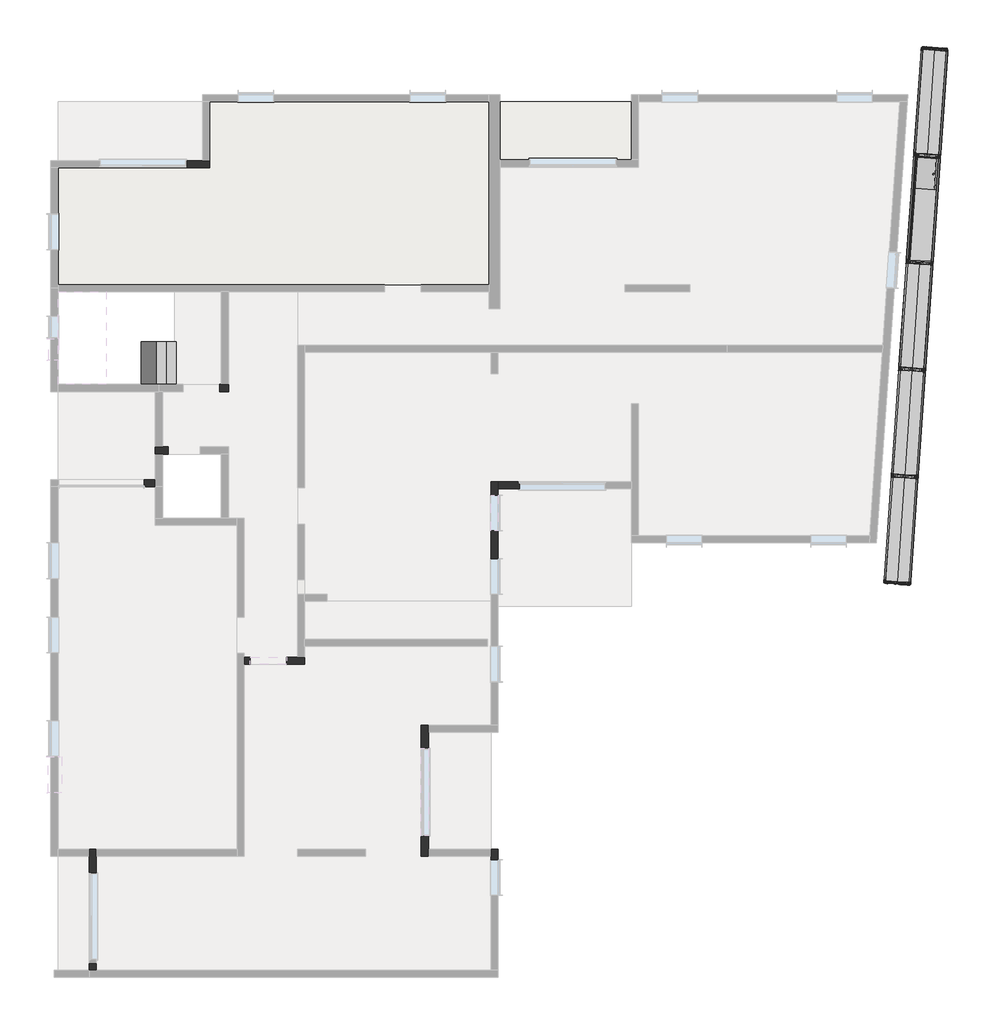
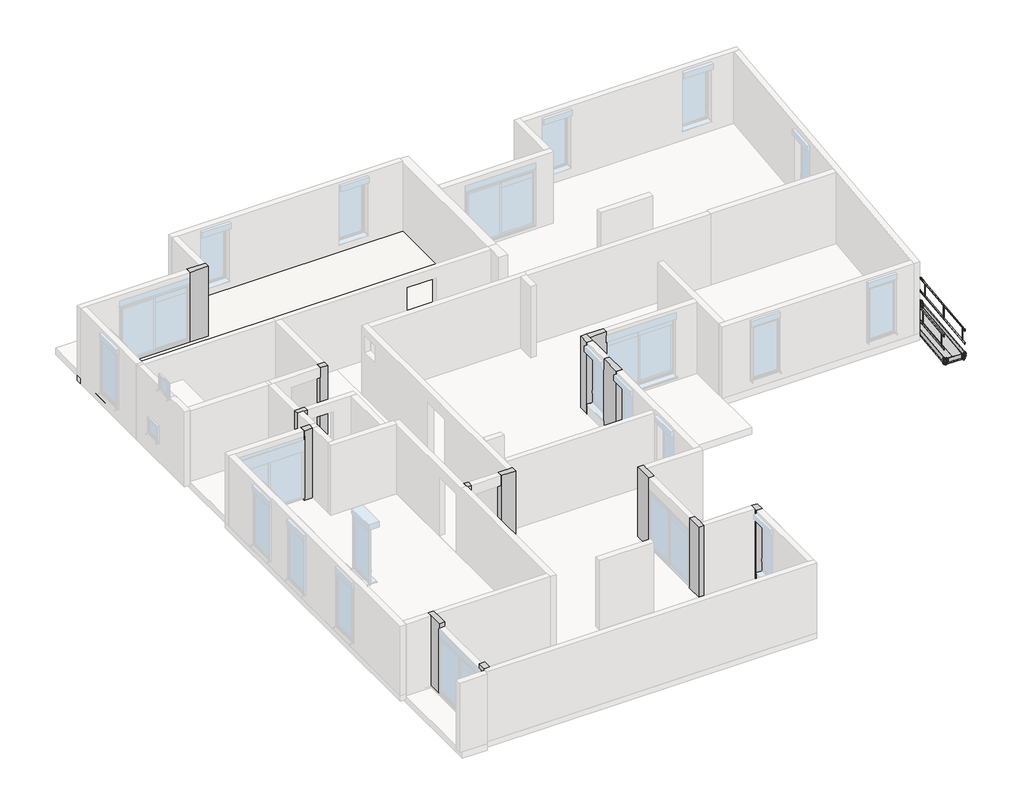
# One storey, part 3 of 3: 55 proxies, 15 columns, 2 slabs, 1 stair flight.
"""IFC4 building model written with IfcOpenShell, lengths in millimetres."""

from ifc_helpers import new_model, si_unit, frame, origin, place, context, project, spatial, polyline, outline, extrude, faceted_brep, transform, mapped, element, save
from components import generic_models_b6224320, generic_models_870fb608, generic_models_6026e95e, generic_models_c9bf4d4e, generic_models_8fe25d63, proxy_03_lisse_70_0da8a22d, proxy_04_lisse_3_m_913477d2

model = new_model("IFC4")

# Units and contexts
model_context = context("Model", 3, world=origin())
ifc_project = project(units=[si_unit("LENGTHUNIT", "METRE", prefix="MILLI")], contexts=[model_context])

# Site, building, storey
site = spatial("IfcSite", under=ifc_project)
building = spatial("IfcBuilding", under=site)
storey = spatial("IfcBuildingStorey", under=building, Name="04-Plateau 4", Elevation=6400.0)

# Proxies
placement = place(None, origin())
generic_models_shape = generic_models_b6224320(model_context)
element("IfcBuildingElementProxy", 1, Name="05-Plateau 3.00 m : JPA Plateau Galva", ObjectType="05-Plateau 3.00 m : JPA Plateau Galva", at=placement, inside=storey, context=model_context, shape_type="MappedRepresentation", body=[
    mapped(generic_models_shape, transform((17696.6144519, 11330.0091436, 6400.0), x_axis=(0.06975647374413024, 0.997564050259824, 0.0), y_axis=(-0.997564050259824, 0.06975647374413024, 0.0), z_axis=(0.0, 0.0, 1.0))),
])
element("IfcBuildingElementProxy", 2, Name="05-Plateau 3.00 m : JPA Plateau Galva", ObjectType="05-Plateau 3.00 m : JPA Plateau Galva", at=placement, inside=storey, context=model_context, shape_type="MappedRepresentation", body=[
    mapped(generic_models_shape, transform((18015.8349479, 11307.687072, 6400.0), x_axis=(0.06975647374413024, 0.997564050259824, 0.0), y_axis=(-0.997564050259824, 0.06975647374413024, 0.0), z_axis=(0.0, 0.0, 1.0))),
])
element("IfcBuildingElementProxy", 3, Name="05-Plateau 3.00 m : JPA Plateau Galva", ObjectType="05-Plateau 3.00 m : JPA Plateau Galva", at=placement, inside=storey, context=model_context, shape_type="MappedRepresentation", body=[
    mapped(generic_models_shape, transform((18115.6220564, 17322.0970558, 6400.0), x_axis=(0.06975647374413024, 0.997564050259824, 0.0), y_axis=(-0.997564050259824, 0.06975647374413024, 0.0), z_axis=(0.0, 0.0, 1.0))),
])
element("IfcBuildingElementProxy", 4, Name="05-Plateau 3.00 m : JPA Plateau Galva", ObjectType="05-Plateau 3.00 m : JPA Plateau Galva", at=placement, inside=storey, context=model_context, shape_type="MappedRepresentation", body=[
    mapped(generic_models_shape, transform((18434.8425525, 17299.7749842, 6400.0), x_axis=(0.06975647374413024, 0.997564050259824, 0.0), y_axis=(-0.997564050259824, 0.06975647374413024, 0.0), z_axis=(0.0, 0.0, 1.0))),
])
element("IfcBuildingElementProxy", 5, Name="05-Plateau 3.00 m : JPA Plateau Galva", ObjectType="05-Plateau 3.00 m : JPA Plateau Galva", at=placement, inside=storey, context=model_context, shape_type="MappedRepresentation", body=[
    mapped(generic_models_shape, transform((17487.1106496, 8333.9651875, 6400.0), x_axis=(0.06975647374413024, 0.997564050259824, 0.0), y_axis=(-0.997564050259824, 0.06975647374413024, 0.0), z_axis=(0.0, 0.0, 1.0))),
])
element("IfcBuildingElementProxy", 6, Name="05-Plateau 3.00 m : JPA Plateau Galva", ObjectType="05-Plateau 3.00 m : JPA Plateau Galva", at=placement, inside=storey, context=model_context, shape_type="MappedRepresentation", body=[
    mapped(generic_models_shape, transform((17806.3311456, 8311.6431159, 6400.0), x_axis=(0.06975647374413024, 0.997564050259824, 0.0), y_axis=(-0.997564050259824, 0.06975647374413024, 0.0), z_axis=(0.0, 0.0, 1.0))),
])
element("IfcBuildingElementProxy", 7, Name="05-Plateau 3.00 m : JPA Plateau Galva", ObjectType="05-Plateau 3.00 m : JPA Plateau Galva", at=placement, inside=storey, context=model_context, shape_type="MappedRepresentation", body=[
    mapped(generic_models_shape, transform((17277.6068473, 5337.9212313, 6400.0), x_axis=(0.06975647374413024, 0.997564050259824, 0.0), y_axis=(-0.997564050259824, 0.06975647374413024, 0.0), z_axis=(0.0, 0.0, 1.0))),
])
element("IfcBuildingElementProxy", 8, Name="05-Plateau 3.00 m : JPA Plateau Galva", ObjectType="05-Plateau 3.00 m : JPA Plateau Galva", at=placement, inside=storey, context=model_context, shape_type="MappedRepresentation", body=[
    mapped(generic_models_shape, transform((17596.8273433, 5315.5991597, 6400.0), x_axis=(0.06975647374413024, 0.997564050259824, 0.0), y_axis=(-0.997564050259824, 0.06975647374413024, 0.0), z_axis=(0.0, 0.0, 1.0))),
])
generic_models_2_shape = generic_models_870fb608(model_context)
element("IfcBuildingElementProxy", 9, Name="07-Plancher trappe : JPA Plancher trappe", ObjectType="07-Plancher trappe : JPA Plancher trappe", at=placement, inside=storey, context=model_context, shape_type="MappedRepresentation", body=[
    mapped(generic_models_2_shape, transform((18144.5472757, 17305.6793517, 6400.0), x_axis=(-0.06975647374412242, -0.9975640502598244, 0.0), y_axis=(0.9975640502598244, -0.06975647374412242, 0.0), z_axis=(0.0, 0.0, 1.0))),
])
generic_models_3_shape = generic_models_6026e95e(model_context)
element("IfcBuildingElementProxy", 10, Name="11-Plinthe 0.70 : JPA Plinthe 0.70", ObjectType="11-Plinthe 0.70 : JPA Plinthe 0.70", at=placement, inside=storey, context=model_context, shape_type="MappedRepresentation", body=[
    mapped(generic_models_3_shape, transform((17293.9283677, 5332.6495195, 6400.0), x_axis=(0.9970739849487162, -0.07644258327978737, 0.0), y_axis=(0.07644258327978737, 0.9970739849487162, 0.0), z_axis=(0.0, 0.0, 1.0))),
])
element("IfcBuildingElementProxy", 11, Name="11-Plinthe 0.70 : JPA Plinthe 0.70", ObjectType="11-Plinthe 0.70 : JPA Plinthe 0.70", at=placement, inside=storey, context=model_context, shape_type="MappedRepresentation", body=[
    mapped(generic_models_3_shape, transform((18342.1895888, 20323.4833915, 6400.0), x_axis=(0.9970739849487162, -0.07644258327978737, 0.0), y_axis=(0.07644258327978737, 0.9970739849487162, 0.0), z_axis=(0.0, 0.0, 1.0))),
])
generic_models_4_shape = generic_models_c9bf4d4e(model_context)
element("IfcBuildingElementProxy", 12, Name="12-Plinthe 3 m : JPA Plinthe 3 m", ObjectType="12-Plinthe 3 m : JPA Plinthe 3 m", at=placement, inside=storey, context=model_context, shape_type="MappedRepresentation", body=[
    mapped(generic_models_4_shape, transform((17696.788843, 11332.5030537, 6400.0), x_axis=(0.06975647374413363, 0.9975640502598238, 0.0), y_axis=(-0.9975640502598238, 0.06975647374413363, 0.0), z_axis=(0.0, 0.0, 1.0))),
])
element("IfcBuildingElementProxy", 13, Name="12-Plinthe 3 m : JPA Plinthe 3 m", ObjectType="12-Plinthe 3 m : JPA Plinthe 3 m", at=placement, inside=storey, context=model_context, shape_type="MappedRepresentation", body=[
    mapped(generic_models_4_shape, transform((18395.0836782, 11283.6735221, 6400.0), x_axis=(0.06975647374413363, 0.9975640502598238, 0.0), y_axis=(-0.9975640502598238, 0.06975647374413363, 0.0), z_axis=(0.0, 0.0, 1.0))),
])
element("IfcBuildingElementProxy", 14, Name="12-Plinthe 3 m : JPA Plinthe 3 m", ObjectType="12-Plinthe 3 m : JPA Plinthe 3 m", at=placement, inside=storey, context=model_context, shape_type="MappedRepresentation", body=[
    mapped(generic_models_4_shape, transform((17906.2926453, 14328.5470098, 6400.0), x_axis=(0.06975647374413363, 0.9975640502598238, 0.0), y_axis=(-0.9975640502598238, 0.06975647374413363, 0.0), z_axis=(0.0, 0.0, 1.0))),
])
element("IfcBuildingElementProxy", 15, Name="12-Plinthe 3 m : JPA Plinthe 3 m", ObjectType="12-Plinthe 3 m : JPA Plinthe 3 m", at=placement, inside=storey, context=model_context, shape_type="MappedRepresentation", body=[
    mapped(generic_models_4_shape, transform((18604.5874805, 14279.7174782, 6400.0), x_axis=(0.06975647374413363, 0.9975640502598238, 0.0), y_axis=(-0.9975640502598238, 0.06975647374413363, 0.0), z_axis=(0.0, 0.0, 1.0))),
])
element("IfcBuildingElementProxy", 16, Name="12-Plinthe 3 m : JPA Plinthe 3 m", ObjectType="12-Plinthe 3 m : JPA Plinthe 3 m", at=placement, inside=storey, context=model_context, shape_type="MappedRepresentation", body=[
    mapped(generic_models_4_shape, transform((18115.7964476, 17324.590966, 6400.0), x_axis=(0.06975647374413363, 0.9975640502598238, 0.0), y_axis=(-0.9975640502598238, 0.06975647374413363, 0.0), z_axis=(0.0, 0.0, 1.0))),
])
element("IfcBuildingElementProxy", 17, Name="12-Plinthe 3 m : JPA Plinthe 3 m", ObjectType="12-Plinthe 3 m : JPA Plinthe 3 m", at=placement, inside=storey, context=model_context, shape_type="MappedRepresentation", body=[
    mapped(generic_models_4_shape, transform((18814.0912828, 17275.7614343, 6400.0), x_axis=(0.06975647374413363, 0.9975640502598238, 0.0), y_axis=(-0.9975640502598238, 0.06975647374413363, 0.0), z_axis=(0.0, 0.0, 1.0))),
])
element("IfcBuildingElementProxy", 18, Name="12-Plinthe 3 m : JPA Plinthe 3 m", ObjectType="12-Plinthe 3 m : JPA Plinthe 3 m", at=placement, inside=storey, context=model_context, shape_type="MappedRepresentation", body=[
    mapped(generic_models_4_shape, transform((17487.2850407, 8336.4590976, 6400.0), x_axis=(0.06975647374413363, 0.9975640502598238, 0.0), y_axis=(-0.9975640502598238, 0.06975647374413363, 0.0), z_axis=(0.0, 0.0, 1.0))),
])
element("IfcBuildingElementProxy", 19, Name="12-Plinthe 3 m : JPA Plinthe 3 m", ObjectType="12-Plinthe 3 m : JPA Plinthe 3 m", at=placement, inside=storey, context=model_context, shape_type="MappedRepresentation", body=[
    mapped(generic_models_4_shape, transform((18185.5798759, 8287.629566, 6400.0), x_axis=(0.06975647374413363, 0.9975640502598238, 0.0), y_axis=(-0.9975640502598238, 0.06975647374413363, 0.0), z_axis=(0.0, 0.0, 1.0))),
])
element("IfcBuildingElementProxy", 20, Name="12-Plinthe 3 m : JPA Plinthe 3 m", ObjectType="12-Plinthe 3 m : JPA Plinthe 3 m", at=placement, inside=storey, context=model_context, shape_type="MappedRepresentation", body=[
    mapped(generic_models_4_shape, transform((17277.7812384, 5340.4151415, 6400.0), x_axis=(0.06975647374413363, 0.9975640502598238, 0.0), y_axis=(-0.9975640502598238, 0.06975647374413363, 0.0), z_axis=(0.0, 0.0, 1.0))),
])
element("IfcBuildingElementProxy", 21, Name="12-Plinthe 3 m : JPA Plinthe 3 m", ObjectType="12-Plinthe 3 m : JPA Plinthe 3 m", at=placement, inside=storey, context=model_context, shape_type="MappedRepresentation", body=[
    mapped(generic_models_4_shape, transform((17976.0760736, 5291.5856098, 6400.0), x_axis=(0.06975647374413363, 0.9975640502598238, 0.0), y_axis=(-0.9975640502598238, 0.06975647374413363, 0.0), z_axis=(0.0, 0.0, 1.0))),
])
generic_models_5_shape = generic_models_8fe25d63(model_context)
element("IfcBuildingElementProxy", 22, Name="14-Garde corps 300 : JPA Garde corps 300", ObjectType="14-Garde corps 300 : JPA Garde corps 300", at=placement, inside=storey, context=model_context, shape_type="MappedRepresentation", body=[
    mapped(generic_models_5_shape, transform((17696.7673576, 11331.7493383, 6400.0), x_axis=(0.06975647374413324, 0.9975640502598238, 0.0), y_axis=(-0.9975640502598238, 0.06975647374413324, 0.0), z_axis=(0.0, 0.0, 1.0))),
])
element("IfcBuildingElementProxy", 23, Name="14-Garde corps 300 : JPA Garde corps 300", ObjectType="14-Garde corps 300 : JPA Garde corps 300", at=placement, inside=storey, context=model_context, shape_type="MappedRepresentation", body=[
    mapped(generic_models_5_shape, transform((17906.2711598, 14347.7932944, 6400.0), x_axis=(0.06975647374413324, 0.9975640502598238, 0.0), y_axis=(-0.9975640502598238, 0.06975647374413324, 0.0), z_axis=(0.0, 0.0, 1.0))),
])
element("IfcBuildingElementProxy", 24, Name="14-Garde corps 300 : JPA Garde corps 300", ObjectType="14-Garde corps 300 : JPA Garde corps 300", at=placement, inside=storey, context=model_context, shape_type="MappedRepresentation", body=[
    mapped(generic_models_5_shape, transform((18115.7749621, 17323.8372506, 6400.0), x_axis=(0.06975647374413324, 0.9975640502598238, 0.0), y_axis=(-0.9975640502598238, 0.06975647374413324, 0.0), z_axis=(0.0, 0.0, 1.0))),
])
element("IfcBuildingElementProxy", 25, Name="14-Garde corps 300 : JPA Garde corps 300", ObjectType="14-Garde corps 300 : JPA Garde corps 300", at=placement, inside=storey, context=model_context, shape_type="MappedRepresentation", body=[
    mapped(generic_models_5_shape, transform((17487.2635553, 8335.7053822, 6400.0), x_axis=(0.06975647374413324, 0.9975640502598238, 0.0), y_axis=(-0.9975640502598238, 0.06975647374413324, 0.0), z_axis=(0.0, 0.0, 1.0))),
])
element("IfcBuildingElementProxy", 26, Name="14-Garde corps 300 : JPA Garde corps 300", ObjectType="14-Garde corps 300 : JPA Garde corps 300", at=placement, inside=storey, context=model_context, shape_type="MappedRepresentation", body=[
    mapped(generic_models_5_shape, transform((18814.2002275, 17273.8372506, 6400.0), x_axis=(0.06975647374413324, 0.9975640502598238, 0.0), y_axis=(-0.9975640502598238, 0.06975647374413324, 0.0), z_axis=(0.0, 0.0, 1.0))),
])
element("IfcBuildingElementProxy", 27, Name="14-Garde corps 300 : JPA Garde corps 300", ObjectType="14-Garde corps 300 : JPA Garde corps 300", at=placement, inside=storey, context=model_context, shape_type="MappedRepresentation", body=[
    mapped(generic_models_5_shape, transform((18604.2002275, 14273.8372506, 6400.0), x_axis=(0.06975647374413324, 0.9975640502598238, 0.0), y_axis=(-0.9975640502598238, 0.06975647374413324, 0.0), z_axis=(0.0, 0.0, 1.0))),
])
element("IfcBuildingElementProxy", 28, Name="14-Garde corps 300 : JPA Garde corps 300", ObjectType="14-Garde corps 300 : JPA Garde corps 300", at=placement, inside=storey, context=model_context, shape_type="MappedRepresentation", body=[
    mapped(generic_models_5_shape, transform((18394.9308063, 11281.1450998, 6400.0), x_axis=(0.06975647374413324, 0.9975640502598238, 0.0), y_axis=(-0.9975640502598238, 0.06975647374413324, 0.0), z_axis=(0.0, 0.0, 1.0))),
])
element("IfcBuildingElementProxy", 29, Name="14-Garde corps 300 : JPA Garde corps 300", ObjectType="14-Garde corps 300 : JPA Garde corps 300", at=placement, inside=storey, context=model_context, shape_type="MappedRepresentation", body=[
    mapped(generic_models_5_shape, transform((18185.427004, 8285.1011437, 6400.0), x_axis=(0.06975647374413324, 0.9975640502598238, 0.0), y_axis=(-0.9975640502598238, 0.06975647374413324, 0.0), z_axis=(0.0, 0.0, 1.0))),
])
element("IfcBuildingElementProxy", 30, Name="14-Garde corps 300 : JPA Garde corps 300", ObjectType="14-Garde corps 300 : JPA Garde corps 300", at=placement, inside=storey, context=model_context, shape_type="MappedRepresentation", body=[
    mapped(generic_models_5_shape, transform((17277.759753, 5339.6614261, 6400.0), x_axis=(0.06975647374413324, 0.9975640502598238, 0.0), y_axis=(-0.9975640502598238, 0.06975647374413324, 0.0), z_axis=(0.0, 0.0, 1.0))),
])
element("IfcBuildingElementProxy", 31, Name="14-Garde corps 300 : JPA Garde corps 300", ObjectType="14-Garde corps 300 : JPA Garde corps 300", at=placement, inside=storey, context=model_context, shape_type="MappedRepresentation", body=[
    mapped(generic_models_5_shape, transform((17975.9232017, 5289.0571875, 6400.0), x_axis=(0.06975647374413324, 0.9975640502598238, 0.0), y_axis=(-0.9975640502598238, 0.06975647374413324, 0.0), z_axis=(0.0, 0.0, 1.0))),
])
proxy_03_lisse_70_shape = proxy_03_lisse_70_0da8a22d(model_context)
element("IfcBuildingElementProxy", 32, Name="03-Lisse 70 : JPA Lisse Galva", ObjectType="03-Lisse 70 : JPA Lisse Galva", at=placement, inside=storey, context=model_context, shape_type="MappedRepresentation", body=[
    mapped(proxy_03_lisse_70_shape, transform((17687.6637048, 11325.7592688, 6400.0), x_axis=(0.9975640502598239, -0.06975647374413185, 0.0), y_axis=(0.06975647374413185, 0.9975640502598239, 0.0), z_axis=(0.0, 0.0, 1.0))),
])
element("IfcBuildingElementProxy", 33, Name="03-Lisse 70 : JPA Lisse Galva", ObjectType="03-Lisse 70 : JPA Lisse Galva", at=placement, inside=storey, context=model_context, shape_type="MappedRepresentation", body=[
    mapped(proxy_03_lisse_70_shape, transform((17897.1675071, 14321.8032249, 6400.0), x_axis=(0.9975640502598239, -0.06975647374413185, 0.0), y_axis=(0.06975647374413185, 0.9975640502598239, 0.0), z_axis=(0.0, 0.0, 1.0))),
])
element("IfcBuildingElementProxy", 34, Name="03-Lisse 70 : JPA Lisse Galva", ObjectType="03-Lisse 70 : JPA Lisse Galva", at=placement, inside=storey, context=model_context, shape_type="MappedRepresentation", body=[
    mapped(proxy_03_lisse_70_shape, transform((18106.6713094, 17317.847181, 6400.0), x_axis=(0.9975640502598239, -0.06975647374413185, 0.0), y_axis=(0.06975647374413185, 0.9975640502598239, 0.0), z_axis=(0.0, 0.0, 1.0))),
])
element("IfcBuildingElementProxy", 35, Name="03-Lisse 70 : JPA Lisse Galva", ObjectType="03-Lisse 70 : JPA Lisse Galva", at=placement, inside=storey, context=model_context, shape_type="MappedRepresentation", body=[
    mapped(proxy_03_lisse_70_shape, transform((18311.1751117, 20323.8911372, 6400.0), x_axis=(0.9975640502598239, -0.06975647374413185, 0.0), y_axis=(0.06975647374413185, 0.9975640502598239, 0.0), z_axis=(0.0, 0.0, 1.0))),
])
element("IfcBuildingElementProxy", 36, Name="03-Lisse 70 : JPA Lisse Galva", ObjectType="03-Lisse 70 : JPA Lisse Galva", at=placement, inside=storey, context=model_context, shape_type="MappedRepresentation", body=[
    mapped(proxy_03_lisse_70_shape, transform((17478.1599025, 8329.7153127, 6400.0), x_axis=(0.9975640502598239, -0.06975647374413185, 0.0), y_axis=(0.06975647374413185, 0.9975640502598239, 0.0), z_axis=(0.0, 0.0, 1.0))),
])
element("IfcBuildingElementProxy", 37, Name="03-Lisse 70 : JPA Lisse Galva", ObjectType="03-Lisse 70 : JPA Lisse Galva", at=placement, inside=storey, context=model_context, shape_type="MappedRepresentation", body=[
    mapped(proxy_03_lisse_70_shape, transform((17478.1599025, 8329.7153127, 6400.0), x_axis=(0.9975640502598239, -0.06975647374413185, 0.0), y_axis=(0.06975647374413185, 0.9975640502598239, 0.0), z_axis=(0.0, 0.0, 1.0))),
])
element("IfcBuildingElementProxy", 38, Name="03-Lisse 70 : JPA Lisse Galva", ObjectType="03-Lisse 70 : JPA Lisse Galva", at=placement, inside=storey, context=model_context, shape_type="MappedRepresentation", body=[
    mapped(proxy_03_lisse_70_shape, transform((17268.6561002, 5333.6713565, 6400.0), x_axis=(0.9975640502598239, -0.06975647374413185, 0.0), y_axis=(0.06975647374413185, 0.9975640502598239, 0.0), z_axis=(0.0, 0.0, 1.0))),
])
proxy_04_lisse_3_m_shape = proxy_04_lisse_3_m_913477d2(model_context)
element("IfcBuildingElementProxy", 39, Name="04-Lisse 3 m : JPA Lisse Galva", ObjectType="04-Lisse 3 m : JPA Lisse Galva", at=placement, inside=storey, context=model_context, shape_type="MappedRepresentation", body=[
    mapped(proxy_04_lisse_3_m_shape, transform((18185.5798759, 8287.629566, 6400.0), x_axis=(0.06975647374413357, 0.9975640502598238, 0.0), y_axis=(-0.9975640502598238, 0.06975647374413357, 0.0), z_axis=(0.0, 0.0, 1.0))),
])
element("IfcBuildingElementProxy", 40, Name="04-Lisse 3 m : JPA Lisse Galva", ObjectType="04-Lisse 3 m : JPA Lisse Galva", at=placement, inside=storey, context=model_context, shape_type="MappedRepresentation", body=[
    mapped(proxy_04_lisse_3_m_shape, transform((18394.2117223, 11271.2039715, 6400.0), x_axis=(0.06975647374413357, 0.9975640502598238, 0.0), y_axis=(-0.9975640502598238, 0.06975647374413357, 0.0), z_axis=(0.0, 0.0, 1.0))),
])
element("IfcBuildingElementProxy", 41, Name="04-Lisse 3 m : JPA Lisse Galva", ObjectType="04-Lisse 3 m : JPA Lisse Galva", at=placement, inside=storey, context=model_context, shape_type="MappedRepresentation", body=[
    mapped(proxy_04_lisse_3_m_shape, transform((18604.1764114, 14273.838916, 6400.0), x_axis=(0.06975647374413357, 0.9975640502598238, 0.0), y_axis=(-0.9975640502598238, 0.06975647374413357, 0.0), z_axis=(0.0, 0.0, 1.0))),
])
element("IfcBuildingElementProxy", 42, Name="04-Lisse 3 m : JPA Lisse Galva", ObjectType="04-Lisse 3 m : JPA Lisse Galva", at=placement, inside=storey, context=model_context, shape_type="MappedRepresentation", body=[
    mapped(proxy_04_lisse_3_m_shape, transform((18813.5502996, 17268.0250134, 6400.0), x_axis=(0.06975647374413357, 0.9975640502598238, 0.0), y_axis=(-0.9975640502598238, 0.06975647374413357, 0.0), z_axis=(0.0, 0.0, 1.0))),
])
element("IfcBuildingElementProxy", 43, Name="04-Lisse 3 m : JPA Lisse Galva", ObjectType="04-Lisse 3 m : JPA Lisse Galva", at=placement, inside=storey, context=model_context, shape_type="MappedRepresentation", body=[
    mapped(proxy_04_lisse_3_m_shape, transform((17976.0760736, 5291.5856098, 6400.0), x_axis=(0.06975647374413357, 0.9975640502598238, 0.0), y_axis=(-0.9975640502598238, 0.06975647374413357, 0.0), z_axis=(0.0, 0.0, 1.0))),
])
element("IfcBuildingElementProxy", 44, Name="04-Lisse 3 m : JPA Lisse Galva", ObjectType="04-Lisse 3 m : JPA Lisse Galva", at=placement, inside=storey, context=model_context, shape_type="MappedRepresentation", body=[
    mapped(proxy_04_lisse_3_m_shape, transform((17487.2850407, 8336.4590976, 6400.0), x_axis=(0.06975647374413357, 0.9975640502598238, 0.0), y_axis=(-0.9975640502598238, 0.06975647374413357, 0.0), z_axis=(0.0, 0.0, 1.0))),
])
element("IfcBuildingElementProxy", 45, Name="04-Lisse 3 m : JPA Lisse Galva", ObjectType="04-Lisse 3 m : JPA Lisse Galva", at=placement, inside=storey, context=model_context, shape_type="MappedRepresentation", body=[
    mapped(proxy_04_lisse_3_m_shape, transform((17695.9168871, 11320.0335031, 6400.0), x_axis=(0.06975647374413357, 0.9975640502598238, 0.0), y_axis=(-0.9975640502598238, 0.06975647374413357, 0.0), z_axis=(0.0, 0.0, 1.0))),
])
element("IfcBuildingElementProxy", 46, Name="04-Lisse 3 m : JPA Lisse Galva", ObjectType="04-Lisse 3 m : JPA Lisse Galva", at=placement, inside=storey, context=model_context, shape_type="MappedRepresentation", body=[
    mapped(proxy_04_lisse_3_m_shape, transform((17905.8815762, 14322.6684476, 6400.0), x_axis=(0.06975647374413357, 0.9975640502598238, 0.0), y_axis=(-0.9975640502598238, 0.06975647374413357, 0.0), z_axis=(0.0, 0.0, 1.0))),
])
element("IfcBuildingElementProxy", 47, Name="04-Lisse 3 m : JPA Lisse Galva", ObjectType="04-Lisse 3 m : JPA Lisse Galva", at=placement, inside=storey, context=model_context, shape_type="MappedRepresentation", body=[
    mapped(proxy_04_lisse_3_m_shape, transform((18115.2554644, 17316.8545451, 6400.0), x_axis=(0.06975647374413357, 0.9975640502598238, 0.0), y_axis=(-0.9975640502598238, 0.06975647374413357, 0.0), z_axis=(0.0, 0.0, 1.0))),
])
element("IfcBuildingElementProxy", 48, Name="04-Lisse 3 m : JPA Lisse Galva", ObjectType="04-Lisse 3 m : JPA Lisse Galva", at=placement, inside=storey, context=model_context, shape_type="MappedRepresentation", body=[
    mapped(proxy_04_lisse_3_m_shape, transform((17277.7812384, 5340.4151415, 6400.0), x_axis=(0.06975647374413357, 0.9975640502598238, 0.0), y_axis=(-0.9975640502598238, 0.06975647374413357, 0.0), z_axis=(0.0, 0.0, 1.0))),
])
element("IfcBuildingElementProxy", 49, Name="04-Lisse 3 m : JPA Lisse Galva", ObjectType="04-Lisse 3 m : JPA Lisse Galva", at=placement, inside=storey, context=model_context, shape_type="MappedRepresentation", body=[
    mapped(proxy_04_lisse_3_m_shape, transform((17500.8765554, 8353.1677495, 6400.0), x_axis=(0.06975647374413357, 0.9975640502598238, 0.0), y_axis=(-0.9975640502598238, 0.06975647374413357, 0.0), z_axis=(0.0, 0.0, 1.0))),
])
element("IfcBuildingElementProxy", 50, Name="04-Lisse 3 m : JPA Lisse Galva", ObjectType="04-Lisse 3 m : JPA Lisse Galva", at=placement, inside=storey, context=model_context, shape_type="MappedRepresentation", body=[
    mapped(proxy_04_lisse_3_m_shape, transform((17709.5084018, 11336.742155, 6400.0), x_axis=(0.06975647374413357, 0.9975640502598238, 0.0), y_axis=(-0.9975640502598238, 0.06975647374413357, 0.0), z_axis=(0.0, 0.0, 1.0))),
])
element("IfcBuildingElementProxy", 51, Name="04-Lisse 3 m : JPA Lisse Galva", ObjectType="04-Lisse 3 m : JPA Lisse Galva", at=placement, inside=storey, context=model_context, shape_type="MappedRepresentation", body=[
    mapped(proxy_04_lisse_3_m_shape, transform((17919.4730909, 14339.3770995, 6400.0), x_axis=(0.06975647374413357, 0.9975640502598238, 0.0), y_axis=(-0.9975640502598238, 0.06975647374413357, 0.0), z_axis=(0.0, 0.0, 1.0))),
])
element("IfcBuildingElementProxy", 52, Name="04-Lisse 3 m : JPA Lisse Galva", ObjectType="04-Lisse 3 m : JPA Lisse Galva", at=placement, inside=storey, context=model_context, shape_type="MappedRepresentation", body=[
    mapped(proxy_04_lisse_3_m_shape, transform((18128.846979, 17333.563197, 6400.0), x_axis=(0.06975647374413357, 0.9975640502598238, 0.0), y_axis=(-0.9975640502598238, 0.06975647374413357, 0.0), z_axis=(0.0, 0.0, 1.0))),
])
element("IfcBuildingElementProxy", 53, Name="04-Lisse 3 m : JPA Lisse Galva", ObjectType="04-Lisse 3 m : JPA Lisse Galva", at=placement, inside=storey, context=model_context, shape_type="MappedRepresentation", body=[
    mapped(proxy_04_lisse_3_m_shape, transform((17291.3727531, 5357.1237934, 6400.0), x_axis=(0.06975647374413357, 0.9975640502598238, 0.0), y_axis=(-0.9975640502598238, 0.06975647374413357, 0.0), z_axis=(0.0, 0.0, 1.0))),
])
element("IfcBuildingElementProxy", 54, Name="04-Lisse 3 m : JPA Lisse Galva", ObjectType="04-Lisse 3 m : JPA Lisse Galva", at=placement, inside=storey, context=model_context, shape_type="MappedRepresentation", body=[
    mapped(proxy_04_lisse_3_m_shape, transform((18604.1764114, 14271.2936372, 5904.432796), x_axis=(0.06975647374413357, 0.9975640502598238, 0.0), y_axis=(-0.9975640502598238, 0.06975647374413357, 0.0), z_axis=(0.0, 0.0, 1.0))),
])
element("IfcBuildingElementProxy", 55, Name="04-Lisse 3 m : JPA Lisse Galva", ObjectType="04-Lisse 3 m : JPA Lisse Galva", at=placement, inside=storey, context=model_context, shape_type="MappedRepresentation", body=[
    mapped(proxy_04_lisse_3_m_shape, transform((17919.4730909, 14336.8318207, 5904.432796), x_axis=(0.06975647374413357, 0.9975640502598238, 0.0), y_axis=(-0.9975640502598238, 0.06975647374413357, 0.0), z_axis=(0.0, 0.0, 1.0))),
])

# Columns
element("IfcColumn", 56, ObjectType="Poteau béton - Rectangulaire : 200x175", at=placement, inside=storey, context=model_context, shape_type="Brep", body=[
    faceted_brep([(-512.0447796, 3039.8622276, 6970.0), (-687.0447796, 3039.8622276, 6970.0), (-687.0447796, 3239.8622276, 6970.0), (-512.0447796, 3239.8622276, 6970.0), (-512.0447796, 3039.8622276, 9140.0), (-512.0447796, 3039.8622276, 9510.0), (-687.0447796, 3039.8622276, 9510.0), (-687.0447796, 3239.8622276, 9510.0), (-512.0447796, 3239.8622276, 9510.0), (-512.0447796, 3239.8622276, 9140.0)], [[[0, 1, 2, 3]], [[1, 0, 4, 5, 6]], [[2, 1, 6, 7]], [[3, 2, 7, 8, 9]], [[0, 3, 9, 8, 5, 4]], [[6, 5, 8, 7]]]),
])
element("IfcColumn", 57, ObjectType="Poteau béton - Rectangulaire : 200x250 mm", at=placement, inside=storey, context=model_context, shape_type="Brep", body=[
    faceted_brep([(-1377.0447796, 10879.8622276, 6970.0), (-1327.0447796, 10879.8622276, 6970.0), (-1127.0447796, 10879.8622276, 6970.0), (-1127.0447796, 10679.8622276, 6970.0), (-1377.0447796, 10679.8622276, 6970.0), (-1377.0447796, 10879.8622276, 9140.0), (-1377.0447796, 10879.8622276, 9510.0), (-1327.0447796, 10879.8622276, 9510.0), (-1127.0447796, 10879.8622276, 9510.0), (-1127.0447796, 10679.8622276, 9510.0), (-1377.0447796, 10679.8622276, 9510.0), (-1377.0447796, 10679.8622276, 9140.0)], [[[0, 1, 2, 3, 4]], [[2, 1, 0, 5, 6, 7, 8]], [[3, 2, 8, 9]], [[4, 3, 9, 10, 11]], [[0, 4, 11, 10, 6, 5]], [[8, 7, 6, 10, 9]]]),
])
element("IfcColumn", 58, ObjectType="Poteau béton - Rectangulaire : 200x360 mm", at=placement, inside=storey, context=model_context, shape_type="Brep", body=[
    faceted_brep([(-3177.0447796, 9129.8622276, 6970.0), (-2977.0447796, 9129.8622276, 6970.0), (-2817.0447796, 9129.8622276, 6970.0), (-2817.0447796, 8929.8622276, 6970.0), (-2977.0447796, 8929.8622276, 6970.0), (-3177.0447796, 8929.8622276, 6970.0), (-3177.0447796, 9129.8622276, 9510.0), (-2977.0447796, 9129.8622276, 9510.0), (-2817.0447796, 9129.8622276, 9510.0), (-2817.0447796, 9129.8622276, 9140.0), (-2817.0447796, 8929.8622276, 9510.0), (-2817.0447796, 8929.8622276, 9140.0), (-3177.0447796, 8929.8622276, 9510.0)], [[[0, 1, 2, 3, 4, 5]], [[2, 1, 0, 6, 7, 8, 9]], [[3, 2, 9, 8, 10, 11]], [[5, 4, 3, 11, 10, 12]], [[0, 5, 12, 6]], [[8, 7, 6, 12, 10]]]),
])
element("IfcColumn", 59, ObjectType="Poteau béton - Rectangulaire : 200x505", at=placement, inside=storey, context=model_context, shape_type="Brep", body=[
    faceted_brep([(1012.9552204, 3039.8622276, 6970.0), (507.9552204, 3039.8622276, 6970.0), (507.9552204, 3239.8622276, 6970.0), (1012.9552204, 3239.8622276, 6970.0), (1012.9552204, 3039.8622276, 9510.0), (507.9552204, 3039.8622276, 9510.0), (507.9552204, 3039.8622276, 9140.0), (507.9552204, 3239.8622276, 9510.0), (507.9552204, 3239.8622276, 9140.0), (812.9552204, 3239.8622276, 9510.0), (1012.9552204, 3239.8622276, 9510.0)], [[[0, 1, 2, 3]], [[1, 0, 4, 5, 6]], [[2, 1, 6, 5, 7, 8]], [[3, 2, 8, 7, 9, 10]], [[0, 3, 10, 4]], [[5, 4, 10, 9, 7]]]),
])
element("IfcColumn", 60, ObjectType="Poteau béton - Rectangulaire : 200x510 mm", at=placement, inside=storey, context=model_context, shape_type="Brep", body=[
    faceted_brep([(-3487.0447796, 8009.8622276, 6970.0), (-3487.0447796, 8209.8622276, 6970.0), (-3177.0447796, 8209.8622276, 6970.0), (-3177.0447796, 8009.8622276, 6970.0), (-3487.0447796, 8209.8622276, 9540.0), (-3177.0447796, 8209.8622276, 9540.0), (-3177.0447796, 8209.8622276, 9430.0), (-3487.0447796, 8009.8622276, 9540.0), (-3177.0447796, 8009.8622276, 9540.0)], [[[0, 1, 2, 3]], [[1, 4, 5, 6, 2]], [[7, 0, 3, 8]], [[1, 0, 7, 4]], [[4, 7, 8, 5]], [[3, 2, 6, 5, 8]]]),
])
element("IfcColumn", 61, ObjectType="Poteau béton - Rectangulaire : 20x30", at=placement, inside=storey, context=model_context, shape_type="SweptSolid", body=[
    extrude(outline(polyline([(-687.0447796, 3339.8622276), (-687.0447796, 3039.8622276), (-887.0447796, 3039.8622276), (-887.0447796, 3339.8622276), (-687.0447796, 3339.8622276)])), frame((0.0, 0.0, 6970.0), z_axis=(0.0, 0.0, 1.0), x_axis=(1.0, 0.0, 0.0)), (0.0, 0.0, 1.0), 2540.0),
])
element("IfcColumn", 62, ObjectType="Poteau béton - Rectangulaire : 20x30", at=placement, inside=storey, context=model_context, shape_type="Brep", body=[
    faceted_brep([(-4837.0447796, -5240.1377724, 6970.0), (-4837.0447796, -5540.1377724, 6970.0), (-5037.0447796, -5540.1377724, 6970.0), (-5037.0447796, -5240.1377724, 6970.0), (-4837.0447796, -5240.1377724, 9540.0), (-4837.0447796, -5540.1377724, 9540.0), (-5037.0447796, -5540.1377724, 9540.0), (-5037.0447796, -5540.1377724, 9430.0), (-5037.0447796, -5240.1377724, 9540.0), (-5037.0447796, -5240.1377724, 9430.0)], [[[0, 1, 2, 3]], [[4, 5, 1, 0]], [[5, 6, 7, 2, 1]], [[6, 8, 9, 3, 2, 7]], [[8, 4, 0, 3, 9]], [[4, 8, 6, 5]]]),
])
element("IfcColumn", 63, ObjectType="Poteau béton - Rectangulaire : 20x30", at=placement, inside=storey, context=model_context, shape_type="Brep", body=[
    faceted_brep([(6432.9552204, -2140.1377724, 6970.0), (6432.9552204, -2440.1377724, 6970.0), (6232.9552204, -2440.1377724, 6970.0), (6232.9552204, -2340.1377724, 6970.0), (6233.3552204, -2340.1377724, 6970.0), (6233.3552204, -2140.1377724, 6970.0), (6432.9552204, -2140.1377724, 6990.0), (6432.9552204, -2140.1377724, 9360.0), (6432.9552204, -2140.1377724, 9540.0), (6432.9552204, -2142.5306807, 9540.0), (6432.9552204, -2440.1377724, 9540.0), (6432.9552204, -2440.1377724, 9440.0), (6432.9552204, -2440.1377724, 7240.0), (6232.9552204, -2440.1377724, 9540.0), (6232.9552204, -2440.1377724, 9440.0), (6232.9552204, -2440.1377724, 7240.0), (6232.9552204, -2340.1377724, 9540.0), (6233.3552204, -2140.1377724, 9540.0), (6233.3552204, -2142.5306807, 9540.0), (6233.3552204, -2340.1377724, 9540.0)], [[[0, 1, 2, 3, 4, 5]], [[1, 0, 6, 7, 8, 9, 10, 11, 12]], [[2, 1, 12, 11, 10, 13, 14, 15]], [[2, 15, 14, 13, 16, 3]], [[8, 7, 6, 0, 5, 17]], [[10, 9, 8, 17, 18, 19, 16, 13]], [[19, 4, 3, 16]], [[4, 19, 18, 17, 5]]]),
])
element("IfcColumn", 64, ObjectType="Poteau béton - Rectangulaire : 20x38", at=placement, inside=storey, context=model_context, shape_type="Brep", body=[
    faceted_brep([(6432.9552204, 8159.8622276, 6900.0), (6432.9552204, 7959.8622276, 6900.0), (6432.9552204, 7779.8622276, 6900.0), (6232.9552204, 7779.8622276, 6900.0), (6232.9552204, 8159.8622276, 6900.0), (6432.9552204, 8159.8622276, 9540.0), (6432.9552204, 7959.8622276, 9540.0), (6432.9552204, 7779.8622276, 9540.0), (6432.9552204, 7779.8622276, 9140.0), (6432.9552204, 7779.8622276, 7240.0), (6432.9552204, 8159.8622276, 9440.0), (6232.9552204, 7779.8622276, 9540.0), (6232.9552204, 7779.8622276, 9140.0), (6232.9552204, 7779.8622276, 7240.0), (6232.9552204, 8159.8622276, 9540.0), (6232.9552204, 8159.8622276, 9440.0)], [[[0, 1, 2, 3, 4]], [[5, 6, 7, 8, 9, 2, 1, 0, 10]], [[7, 11, 12, 13, 3, 2, 9, 8]], [[11, 14, 15, 4, 3, 13, 12]], [[14, 5, 10, 0, 4, 15]], [[5, 14, 11, 7, 6]]]),
])
element("IfcColumn", 65, ObjectType="Poteau béton - Rectangulaire : 20x57", at=placement, inside=storey, context=model_context, shape_type="Brep", body=[
    faceted_brep([(4478.3552204, -1770.1377724, 6970.0), (4478.3552204, -2140.1377724, 6970.0), (4478.3552204, -2340.1377724, 6970.0), (4278.3552204, -2340.1377724, 6970.0), (4278.3552204, -1770.1377724, 6970.0), (4478.3552204, -1770.1377724, 9540.0), (4478.3552204, -2140.1377724, 9540.0), (4478.3552204, -2142.5306807, 9540.0), (4478.3552204, -2340.1377724, 9540.0), (4478.3552204, -1770.1377724, 9140.0), (4278.3552204, -2340.1377724, 9540.0), (4278.3552204, -1770.1377724, 9540.0), (4278.3552204, -1770.1377724, 9140.0)], [[[0, 1, 2, 3, 4]], [[5, 6, 7, 8, 2, 1, 0, 9]], [[8, 10, 3, 2]], [[10, 11, 12, 4, 3]], [[11, 5, 9, 0, 4, 12]], [[5, 11, 10, 8, 7, 6]]]),
])
element("IfcColumn", 66, ObjectType="Poteau béton - Rectangulaire : 20x60", at=placement, inside=storey, context=model_context, shape_type="Brep", body=[
    faceted_brep([(6432.9552204, 8159.8622276, 6900.0), (7032.9552204, 8159.8622276, 6900.0), (7032.9552204, 7959.8622276, 6900.0), (6432.9552204, 7959.8622276, 6900.0), (6432.9552204, 8159.8622276, 9540.0), (7032.9552204, 8159.8622276, 9540.0), (7032.9552204, 7959.8622276, 9540.0), (6432.9552204, 7959.8622276, 9540.0), (6432.9552204, 7959.8622276, 9430.0)], [[[0, 1, 2, 3]], [[4, 5, 1, 0]], [[5, 6, 2, 1]], [[6, 7, 8, 3, 2]], [[7, 4, 0, 3, 8]], [[4, 7, 6, 5]]]),
])
element("IfcColumn", 67, ObjectType="Poteau béton - Rectangulaire : 20x64", at=placement, inside=storey, context=model_context, shape_type="Brep", body=[
    faceted_brep([(-1657.0447796, 16949.8622276, 6970.0), (-2297.0447796, 16949.8622276, 6970.0), (-2297.0447796, 16989.8622276, 6970.0), (-2297.0447796, 17149.8622276, 6970.0), (-1857.0447796, 17149.8622276, 6970.0), (-1657.0447796, 17149.8622276, 6970.0), (-1657.0447796, 17049.8622276, 6970.0), (-1657.0447796, 16949.8622276, 9540.0), (-2297.0447796, 16949.8622276, 9540.0), (-2297.0447796, 16949.8622276, 9340.0), (-2297.0447796, 16949.8622276, 7010.0), (-2297.0447796, 17149.8622276, 9540.0), (-2297.0447796, 17149.8622276, 9340.0), (-2297.0447796, 17149.8622276, 9090.0), (-2297.0447796, 17149.8622276, 6995.0695702), (-1857.0447796, 17149.8622276, 9540.0), (-1657.0447796, 17149.8622276, 9540.0)], [[[0, 1, 2, 3, 4, 5, 6]], [[7, 8, 9, 10, 1, 0]], [[8, 11, 12, 13, 14, 3, 2, 1, 10, 9]], [[11, 15, 16, 5, 4, 3, 14, 13, 12]], [[16, 7, 0, 6, 5]], [[7, 16, 15, 11, 8]]]),
])
element("IfcColumn", 68, ObjectType="Poteau béton - Rectangulaire : 20x68", at=placement, inside=storey, context=model_context, shape_type="Brep", body=[
    faceted_brep([(-4837.0447796, -2140.1377724, 6970.0), (-4837.0447796, -2340.1377724, 6970.0), (-4837.0447796, -2820.1377724, 6970.0), (-5037.0447796, -2820.1377724, 6970.0), (-5037.0447796, -2340.1377724, 6970.0), (-5037.0447796, -2140.1377724, 6970.0), (-4837.0447796, -2140.1377724, 9540.0), (-4837.0447796, -2340.1377724, 9540.0), (-4837.0447796, -2820.1377724, 9540.0), (-5037.0447796, -2820.1377724, 9540.0), (-5037.0447796, -2340.1377724, 9540.0), (-5037.0447796, -2140.1377724, 9540.0), (-5037.0447796, -2140.1377724, 9430.0)], [[[0, 1, 2, 3, 4, 5]], [[6, 7, 8, 2, 1, 0]], [[8, 9, 3, 2]], [[9, 10, 11, 12, 5, 4, 3]], [[11, 6, 0, 5, 12]], [[6, 11, 10, 9, 8, 7]]]),
])
element("IfcColumn", 69, ObjectType="Poteau béton - Rectangulaire : 20x68", at=placement, inside=storey, context=model_context, shape_type="Brep", body=[
    faceted_brep([(4478.3552204, 1329.8622276, 6970.0), (4478.3552204, 1129.8622276, 6970.0), (4478.3552204, 649.8622276, 6970.0), (4278.3552204, 649.8622276, 6970.0), (4278.3552204, 1329.8622276, 6970.0), (4478.3552204, 1329.8622276, 9540.0), (4478.3552204, 1129.8622276, 9540.0), (4478.3552204, 677.5337635, 9540.0), (4478.3552204, 677.5337635, 9140.0), (4478.3552204, 649.8622276, 9140.0), (4278.3552204, 649.8622276, 9140.0), (4278.3552204, 677.5337635, 9140.0), (4278.3552204, 677.5337635, 9540.0), (4278.3552204, 1329.8622276, 9540.0)], [[[0, 1, 2, 3, 4]], [[2, 1, 0, 5, 6, 7, 8, 9]], [[3, 2, 9, 10]], [[4, 3, 10, 11, 12, 13]], [[0, 4, 13, 5]], [[5, 13, 12, 7, 6]], [[8, 11, 10, 9]], [[11, 8, 7, 12]]]),
])
element("IfcColumn", 70, ObjectType="Poteau béton - Rectangulaire : 20x78", at=placement, inside=storey, context=model_context, shape_type="Brep", body=[
    faceted_brep([(6432.9552204, 6779.8622276, 6900.0), (6432.9552204, 5999.8622276, 6900.0), (6232.9552204, 5999.8622276, 6900.0), (6232.9552204, 6779.8622276, 6900.0), (6432.9552204, 6779.8622276, 9540.0), (6432.9552204, 5999.8622276, 9540.0), (6432.9552204, 5999.8622276, 9440.0), (6432.9552204, 5999.8622276, 7240.0), (6432.9552204, 5999.8622276, 6970.0), (6432.9552204, 6779.8622276, 7240.0), (6432.9552204, 6779.8622276, 9140.0), (6232.9552204, 5999.8622276, 9540.0), (6232.9552204, 5999.8622276, 9440.0), (6232.9552204, 5999.8622276, 7240.0), (6232.9552204, 5999.8622276, 6970.0), (6232.9552204, 6779.8622276, 9540.0), (6232.9552204, 6779.8622276, 9140.0), (6232.9552204, 6779.8622276, 7240.0)], [[[0, 1, 2, 3]], [[4, 5, 6, 7, 8, 1, 0, 9, 10]], [[5, 11, 12, 13, 14, 2, 1, 8, 7, 6]], [[11, 15, 16, 17, 3, 2, 14, 13, 12]], [[15, 4, 10, 9, 0, 3, 17, 16]], [[4, 15, 11, 5]]]),
])

# Slabs
element("IfcSlab", 71, ObjectType="Plancher Coulé en place 20 cm", at=placement, inside=storey, context=model_context, shape_type="Brep", body=[
    faceted_brep([(6182.9552204, 18999.8622276, 6770.0), (6182.9552204, 13679.8622276, 6770.0), (508.9552204, 13679.8622276, 6770.0), (-1327.0447796, 13679.8622276, 6770.0), (-1327.0447796, 13479.8622276, 6770.0), (-6107.0447796, 13479.8622276, 6770.0), (-6107.0447796, 13679.8622276, 6770.0), (-6107.0447796, 17149.8622276, 6770.0), (-2297.0447796, 17149.8622276, 6770.0), (-1857.0447796, 17149.8622276, 6770.0), (-1857.0447796, 18999.8622276, 6770.0), (6182.9552204, 18999.8622276, 6970.0), (-1857.0447796, 18999.8622276, 6970.0), (-1857.0447796, 17149.8622276, 6970.0), (-2297.0447796, 17149.8622276, 6970.0), (-6107.0447796, 17149.8622276, 6970.0), (-6107.0447796, 13679.8622276, 6970.0), (-6107.0447796, 13479.8622276, 6970.0), (-1327.0447796, 13479.8622276, 6970.0), (-1327.0447796, 13679.8622276, 6970.0), (508.9552204, 13679.8622276, 6970.0), (6182.9552204, 13679.8622276, 6970.0), (6182.9552204, 18799.8622276, 6970.0)], [[[0, 1, 2, 3, 4, 5, 6, 7, 8, 9, 10]], [[11, 12, 13, 14, 15, 16, 17, 18, 19, 20, 21, 22]], [[1, 0, 11, 22, 21]], [[2, 1, 21, 20]], [[3, 2, 20, 19]], [[7, 6, 16, 15]], [[9, 8, 7, 15, 14, 13]], [[10, 9, 13, 12]], [[0, 10, 12, 11]], [[4, 3, 19, 18]], [[5, 4, 18, 17]], [[6, 5, 17, 16]]]),
])
element("IfcSlab", 72, ObjectType="Plancher Coulé en place 24 cm", at=placement, inside=storey, context=model_context, shape_type="SweptSolid", body=[
    extrude(outline(polyline([(10172.9552204, 17174.8622276), (6482.9552204, 17174.8622276), (6482.9552204, 18799.8622276), (10172.9552204, 18799.8622276), (10172.9552204, 17174.8622276)])), frame((0.0, 0.0, 6660.0), z_axis=(0.0, 0.0, 1.0), x_axis=(1.0, 0.0, 0.0)), (0.0, 0.0, 1.0), 240.0),
])

# Stair flight
element("IfcStairFlight", 73, ObjectType="Profondeur de structure 80 mm", at=placement, inside=storey, context=model_context, shape_type="Brep", body=[
    faceted_brep([(-2870.4151884, 10879.8622276, 7227.0), (-2590.4151884, 10879.8622276, 7227.0), (-2590.4151884, 12079.8622276, 7227.0), (-2870.4151884, 12079.8622276, 7227.0), (-2870.4151884, 10879.8622276, 7130.7991048), (-2734.4593096, 10879.8622276, 7040.0), (-2590.4151884, 10879.8622276, 7040.0), (-2590.4151884, 12079.8622276, 7040.0), (-2734.4593096, 12079.8622276, 7040.0), (-2870.4151884, 12079.8622276, 7130.7991048), (-3150.4151884, 10879.8622276, 7414.0), (-2870.4151884, 10879.8622276, 7414.0), (-2870.4151884, 12079.8622276, 7414.0), (-3150.4151884, 12079.8622276, 7414.0), (-3150.4151884, 10879.8622276, 7317.7991048), (-3150.4151884, 12079.8622276, 7317.7991048), (-3430.4151884, 10879.8622276, 7601.0), (-3150.4151884, 10879.8622276, 7601.0), (-3150.4151884, 12079.8622276, 7601.0), (-3430.4151884, 12079.8622276, 7601.0), (-3430.4151884, 10879.8622276, 7504.7991048), (-3430.4151884, 12079.8622276, 7504.7991048), (-3710.4151884, 10879.8622276, 7788.0), (-3430.4151884, 10879.8622276, 7788.0), (-3430.4151884, 12079.8622276, 7788.0), (-3710.4151884, 12079.8622276, 7788.0), (-3710.4151884, 10879.8622276, 7691.7991048), (-3710.4151884, 12079.8622276, 7691.7991048), (-3990.4151884, 10879.8622276, 7975.0), (-3710.4151884, 10879.8622276, 7975.0), (-3710.4151884, 12079.8622276, 7975.0), (-3990.4151884, 12079.8622276, 7975.0), (-3990.4151884, 10879.8622276, 7878.7991048), (-3990.4151884, 12079.8622276, 7878.7991048), (-4270.4151884, 10879.8622276, 8162.0), (-3990.4151884, 10879.8622276, 8162.0), (-3990.4151884, 12079.8622276, 8162.0), (-4270.4151884, 12079.8622276, 8162.0), (-4270.4151884, 10879.8622276, 8065.7991048), (-4270.4151884, 12079.8622276, 8065.7991048), (-4550.4151884, 10879.8622276, 8349.0), (-4270.4151884, 10879.8622276, 8349.0), (-4270.4151884, 12079.8622276, 8349.0), (-4550.4151884, 12079.8622276, 8349.0), (-4550.4151884, 10879.8622276, 8252.7991048), (-4550.4151884, 12079.8622276, 8252.7991048)], [[[0, 1, 2, 3]], [[1, 0, 4, 5, 6]], [[2, 1, 6, 7]], [[3, 2, 7, 8, 9]], [[10, 11, 12, 13]], [[11, 10, 14, 4, 0]], [[0, 3, 12, 11]], [[13, 12, 3, 9, 15]], [[16, 17, 18, 19]], [[17, 16, 20, 14, 10]], [[10, 13, 18, 17]], [[19, 18, 13, 15, 21]], [[22, 23, 24, 25]], [[23, 22, 26, 20, 16]], [[16, 19, 24, 23]], [[25, 24, 19, 21, 27]], [[28, 29, 30, 31]], [[29, 28, 32, 26, 22]], [[22, 25, 30, 29]], [[31, 30, 25, 27, 33]], [[34, 35, 36, 37]], [[35, 34, 38, 32, 28]], [[28, 31, 36, 35]], [[37, 36, 31, 33, 39]], [[40, 41, 42, 43]], [[41, 40, 44, 38, 34]], [[34, 37, 42, 41]], [[43, 42, 37, 39, 45]], [[40, 43, 45, 44]], [[7, 6, 5, 8]], [[8, 5, 4, 14, 20, 26, 32, 38, 44, 45, 39, 33, 27, 21, 15, 9]]]),
])

save(model, "model.ifc")
